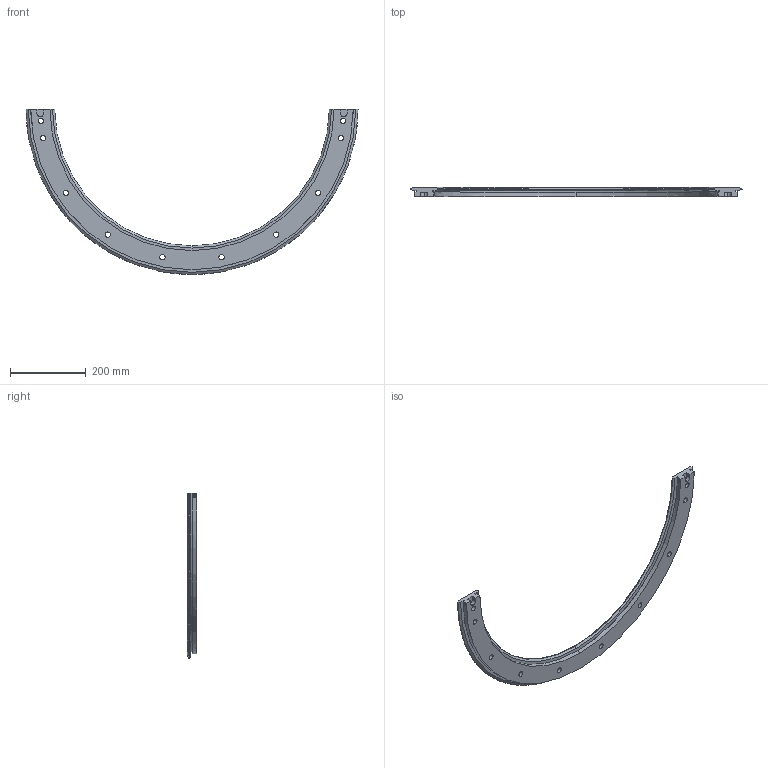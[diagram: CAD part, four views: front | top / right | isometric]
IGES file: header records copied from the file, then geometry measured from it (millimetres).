
Start section: 3D InterOp IGES (v. 2019 1.0.2), Spatial Corp. Copyright (c) 1999-2017.
Global section: file name: TR76 799 R180.igs; native system: Spatial Corp.; preprocessor: 3D InterOp GENERIC/IGES 3.0; author: Noname; organization: Noname; date: 20220628.092407; units: millimetre
Bounding box: 874.6 x 24 x 434.81 mm (x, y, z)
Surface area: 267253.1 mm2 (no closed solid volume)
Topology: 0 solids, 0 shells, 128 faces, 644 edges, 644 vertices
Faces by surface type: revolution 72, extrusion 56
